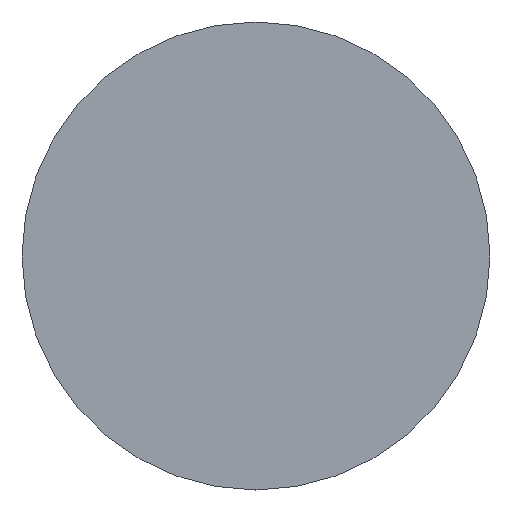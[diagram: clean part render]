
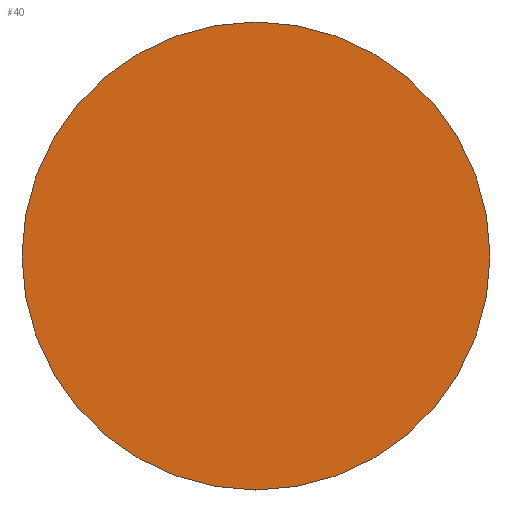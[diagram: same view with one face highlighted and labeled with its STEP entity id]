
A CAD part, top view. The second image highlights one B-rep face of the part: STEP entity #40.
In plain terms, the highlighted planar face has unit normal (0, 0, 1).
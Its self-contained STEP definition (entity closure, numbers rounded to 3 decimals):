
#15=PLANE('',#59);
#18=FACE_OUTER_BOUND('',#21,.T.);
#21=EDGE_LOOP('',(#36));
#25=CIRCLE('',#57,19.8);
#27=VERTEX_POINT('',#76);
#29=EDGE_CURVE('',#27,#27,#25,.T.);
#36=ORIENTED_EDGE('',*,*,#29,.T.);
#40=ADVANCED_FACE('',(#18),#15,.T.);
#57=AXIS2_PLACEMENT_3D('',#77,#65,#66);
#59=AXIS2_PLACEMENT_3D('',#81,#70,#71);
#65=DIRECTION('center_axis',(0.,0.,1.));
#66=DIRECTION('ref_axis',(1.,0.,0.));
#70=DIRECTION('center_axis',(0.,0.,1.));
#71=DIRECTION('ref_axis',(1.,0.,0.));
#76=CARTESIAN_POINT('',(-19.8,42.,-2.45));
#77=CARTESIAN_POINT('Origin',(0.,42.,-2.45));
#81=CARTESIAN_POINT('Origin',(0.,42.,-2.45));
